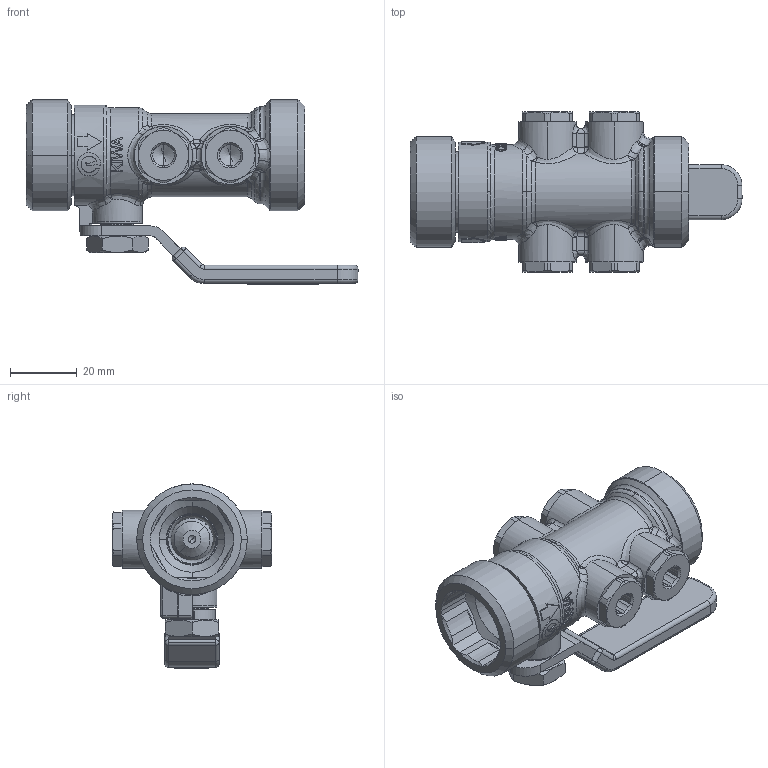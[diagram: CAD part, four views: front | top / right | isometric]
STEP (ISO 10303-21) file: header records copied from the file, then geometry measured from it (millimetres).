
FILE_DESCRIPTION (( 'STEP AP214' ), '1' );
FILE_NAME ('W228020244.STEP', '2018-09-17T07:08:21', ( '' ), ( '' ), 'SwSTEP 2.0', 'SolidWorks 2017', '' );
FILE_SCHEMA (( 'AUTOMOTIVE_DESIGN' ));
Length unit declared in the file: millimetre
Products named in the file (18): 22019272_Torpedo; 22019272_ogive; W022014070; W093003102_00A; 22012537_housing; W098015209_W098015212_PerceeEnrobee; W034020501_W034020514UsM1pouce; W149020618_closed; 9696; W098015202; W098015205; W092020315; 10088; W022020070_JT; W098020211_00A_P627 4 pour 20 et 25; W228020244; 22019272_Membrane; 22019272_ressort
Assembly tree (24 placements, depth 3):
  W228020244
    W034020501_W034020514UsM1pouce
    W098020211_00A_P627 4 pour 20 et 25
    W098015209_W098015212_PerceeEnrobee
    9696
    10088
    W092020315
    W098015202
    W098015205  x2
    W149020618_closed
      22019272_Torpedo
      22012537_housing
      22019272_Membrane
      22019272_ogive
      22019272_ressort
    W022020070_JT
    W093003102_00A  x4
    W022014070  x4
Bounding box: 99.6 x 48 x 55.27 mm (x, y, z)
Volume: 51525.7 mm3; surface area: 40122.2 mm2
Topology: 24 solids, 24 shells, 1213 faces, 3009 edges, 1845 vertices
Faces by surface type: plane 461, cylinder 293, cone 200, bspline 162, torus 85, sphere 12
Entity records: 42747 total; most frequent: CARTESIAN_POINT 18615, ORIENTED_EDGE 5030, DIRECTION 4544, EDGE_CURVE 2515, AXIS2_PLACEMENT_3D 1790, VERTEX_POINT 1557, EDGE_LOOP 1102, ADVANCED_FACE 1026
